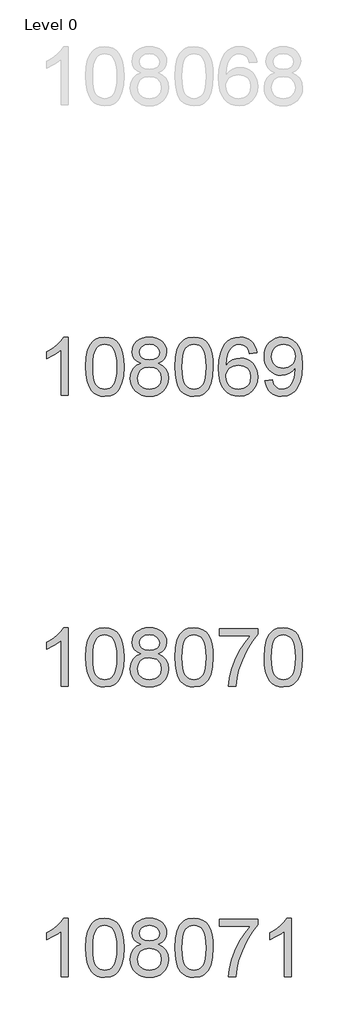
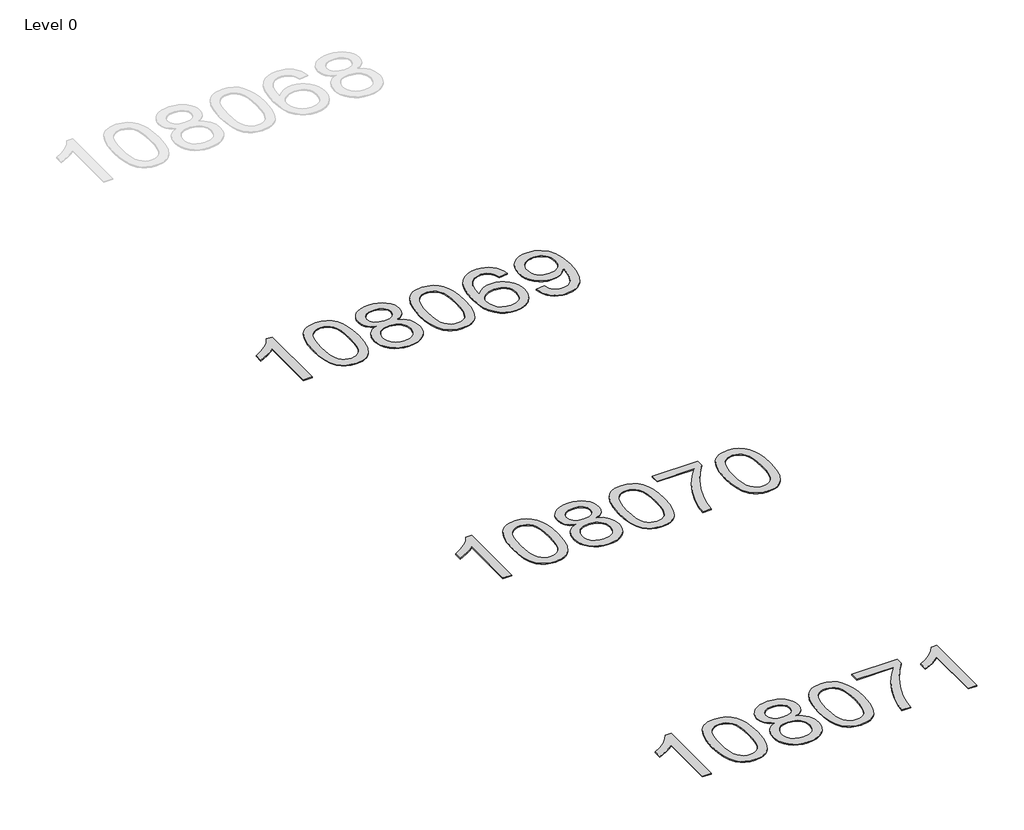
# One storey, part 1 of 9: 3 proxies.
"""IFC4 building model written with IfcOpenShell, lengths in millimetres."""

import ifcopenshell
import ifcopenshell.guid

model = None  # the IFC model being written
_history = None  # IfcOwnerHistory: only IFC2X3 demands one
_inside = {}  # id of a spatial element -> (the spatial element, [elements in it])
_under = {}  # id of a project, library or spatial element -> (it, [spatial elements below it])
_declared = {}  # id of a project -> (the project, [libraries it declares])
_typed = {}  # id of a type object -> (the type object, [elements of that type])
_made_of = {}  # id of a material, layer set ... -> (it, [elements and type objects made of it])


def new_model(schema):
    """Start an empty IFC model of exactly this schema.

    Asked for "IFC4X3", IfcOpenShell would pick the latest addendum, in which some entities
    have other attributes; the version numbers below select the first issue.
    IFC2X3 requires an IfcOwnerHistory on every rooted entity: one is made here for all.
    """
    global model, _history
    if schema == "IFC4X3":
        model = ifcopenshell.file(schema_version=(4, 3, 0, 0))
    else:
        model = ifcopenshell.file(schema=schema)
    _inside.clear()
    _under.clear()
    _declared.clear()
    _typed.clear()
    _made_of.clear()
    _history = None
    if model.schema == "IFC2X3":
        org = make("IfcOrganization", Name="unknown")
        user = make(
            "IfcPersonAndOrganization",
            ThePerson=make("IfcPerson", FamilyName="unknown"),
            TheOrganization=org,
        )
        app = make(
            "IfcApplication",
            ApplicationDeveloper=org,
            Version="unknown",
            ApplicationFullName="unknown",
            ApplicationIdentifier="unknown",
        )
        _history = make(
            "IfcOwnerHistory",
            OwningUser=user,
            OwningApplication=app,
            ChangeAction="ADDED",
            CreationDate=0,
        )
    return model


def make(cls, **values):
    """One entity of the class cls with the attributes given. An attribute that is None is left unset."""
    return model.create_entity(
        cls, **{name: value for name, value in values.items() if value is not None}
    )


def rooted(cls, **values):
    """An entity with a GlobalId (a new one), such as an element, a storey or a relation."""
    return make(cls, GlobalId=ifcopenshell.guid.new(), OwnerHistory=_history, **values)


def si_unit(unit_type, name, prefix=None):
    """IfcSIUnit, for example si_unit("LENGTHUNIT", "METRE", prefix="MILLI")."""
    return make("IfcSIUnit", UnitType=unit_type, Prefix=prefix, Name=name)


def assignment(units):
    """IfcUnitAssignment: the units of a project."""
    return None if units is None else make("IfcUnitAssignment", Units=units)


def point(xyz):
    """IfcCartesianPoint."""
    return None if xyz is None else make("IfcCartesianPoint", Coordinates=xyz)


def direction(xyz):
    """IfcDirection."""
    return None if xyz is None else make("IfcDirection", DirectionRatios=xyz)


def frame(location, z_axis=None, x_axis=None):
    """IfcAxis2Placement3D, a coordinate frame: its origin and axes. An axis left out is left unset."""
    return make(
        "IfcAxis2Placement3D",
        Location=point(location),
        Axis=direction(z_axis),
        RefDirection=direction(x_axis),
    )


def origin():
    """The frame at (0, 0, 0) with its axes left unset."""
    return frame((0.0, 0.0, 0.0))


def origin_with_axes():
    """The frame at (0, 0, 0) with the z axis (0, 0, 1) and the x axis (1, 0, 0) written out."""
    return frame((0.0, 0.0, 0.0), z_axis=(0.0, 0.0, 1.0), x_axis=(1.0, 0.0, 0.0))


def place(relative_to, where):
    """IfcLocalPlacement: puts the frame where relative to a parent placement (None: the world)."""
    return make(
        "IfcLocalPlacement", PlacementRelTo=relative_to, RelativePlacement=where
    )


def context(
    kind, dimensions, precision=None, world=None, true_north=None, identifier=None
):
    """IfcGeometricRepresentationContext, for example the 3D "Model" context."""
    return make(
        "IfcGeometricRepresentationContext",
        ContextIdentifier=identifier,
        ContextType=kind,
        CoordinateSpaceDimension=dimensions,
        Precision=precision,
        WorldCoordinateSystem=world,
        TrueNorth=true_north,
    )


def project(units=None, contexts=None):
    """IfcProject with its units and contexts."""
    return rooted(
        "IfcProject",
        Name="project",
        RepresentationContexts=contexts,
        UnitsInContext=assignment(units),
    )


def spatial(cls, under=None, at=None, **own):
    """A site, building, storey or space (cls), placed at a placement, below another one or the project."""
    s = rooted(cls, ObjectPlacement=at, **own)
    if under is not None:
        _under.setdefault(under.id(), (under, []))[1].append(s)
    return s


def polyline(points):
    """IfcPolyline through the points."""
    return make("IfcPolyline", Points=[point(p) for p in points])


def outline(outer, holes=None, kind="AREA"):
    """IfcArbitraryClosedProfileDef: a profile drawn as a closed curve; with holes, ...WithVoids."""
    if holes is None:
        return make("IfcArbitraryClosedProfileDef", ProfileType=kind, OuterCurve=outer)
    return make(
        "IfcArbitraryProfileDefWithVoids",
        ProfileType=kind,
        OuterCurve=outer,
        InnerCurves=holes,
    )


def extrude(swept, where, along, depth):
    """IfcExtrudedAreaSolid: the profile swept, set in the frame where, extruded along a direction by depth."""
    return make(
        "IfcExtrudedAreaSolid",
        SweptArea=swept,
        Position=where,
        ExtrudedDirection=direction(along),
        Depth=depth,
    )


def shape(context_of_items, identifier, shape_type, items):
    """IfcShapeRepresentation: the items that make up one representation, for example the "Body"."""
    return make(
        "IfcShapeRepresentation",
        ContextOfItems=context_of_items,
        RepresentationIdentifier=identifier,
        RepresentationType=shape_type,
        Items=items,
    )


def made_of(thing, what):
    """Note that an element or type object is made of a material, layer set ...; save() writes the relation."""
    if what is not None:
        _made_of.setdefault(what.id(), (what, []))[1].append(thing)
    return thing


def element(
    cls,
    number,
    at=None,
    inside=None,
    cuts=None,
    type_object=None,
    material=None,
    context=None,
    identifier="Body",
    shape_type=None,
    held_by="IfcProductDefinitionShape",
    body=None,
    shapes=None,
    **own,
):
    """One element of the class cls, such as IfcWall. Its Tag is "e" and its number.

    at: its placement. inside: the storey or other place that contains it. cuts: it is an
    opening in that element (IfcRelVoidsElement). A single representation is given by context,
    identifier, shape_type and body (its items); several are given by shapes. held_by: the class
    of the entity that holds the representations. save() writes the other relations.
    """
    e = rooted(cls, Tag="e%d" % number, ObjectPlacement=at, **own)
    if body is not None:
        shapes = [shape(context, identifier, shape_type, body)]
    if shapes is not None:
        e.Representation = make(held_by, Representations=shapes)
    if inside is not None:
        _inside.setdefault(inside.id(), (inside, []))[1].append(e)
    if cuts is not None:
        rooted(
            "IfcRelVoidsElement", RelatingBuildingElement=cuts, RelatedOpeningElement=e
        )
    if type_object is not None:
        _typed.setdefault(type_object.id(), (type_object, []))[1].append(e)
    return made_of(e, material)


def aggregate(whole, parts):
    """IfcRelAggregates: a whole, such as a stair, and the parts it consists of."""
    return rooted("IfcRelAggregates", RelatingObject=whole, RelatedObjects=parts)


def save(model, path):
    """Write the relations noted so far, then the file.

    IfcRelAggregates (storeys below a building ...), IfcRelContainedInSpatialStructure (elements
    in a storey), IfcRelDefinesByType, IfcRelAssociatesMaterial and IfcRelDeclares: one each for
    every whole, place, type object, material and project.
    """
    for whole, parts in _under.values():
        aggregate(whole, parts)
    for where, things in _inside.values():
        rooted(
            "IfcRelContainedInSpatialStructure",
            RelatedElements=things,
            RelatingStructure=where,
        )
    for kind, things in _typed.values():
        rooted("IfcRelDefinesByType", RelatedObjects=things, RelatingType=kind)
    for what, things in _made_of.values():
        rooted("IfcRelAssociatesMaterial", RelatedObjects=things, RelatingMaterial=what)
    for by, libraries in _declared.values():
        rooted("IfcRelDeclares", RelatingContext=by, RelatedDefinitions=libraries)
    model.write(path)


model = new_model("IFC4")

# Units and contexts
model_context = context("Model", 3, world=origin())
ifc_project = project(units=[si_unit("LENGTHUNIT", "METRE", prefix="MILLI")], contexts=[model_context])

# Site, building, storey
site = spatial("IfcSite", under=ifc_project)
building = spatial("IfcBuilding", under=site)
storey = spatial("IfcBuildingStorey", under=building, Name="Level 0", Elevation=0.0)

# Proxies
placement = place(None, origin())
element("IfcBuildingElementProxy", 1, Name="400mm Arial", ObjectType="400mm Arial", at=placement, inside=storey, context=model_context, shape_type="SweptSolid", body=[
    extrude(outline(polyline([(-3629.592891, -7850.9767982), (-3679.821046, -7850.9767982), (-3679.821046, -7537.8356439), (-3700.7903198, -7554.7950039), (-3727.4004508, -7571.7298384), (-3780.2773562, -7597.0891706), (-3780.2773562, -7549.6078677), (-3740.8281436, -7528.1480847), (-3706.6519062, -7502.6170742), (-3679.7106814, -7475.467383), (-3661.9665065, -7449.1515576), (-3629.592891, -7449.1515576), (-3629.592891, -7850.9767982)])), origin_with_axes(), (0.0, 0.0, 1.0), 5.0),
    extrude(outline(polyline([(-3510.3010227, -7653.3015394), (-3506.60994, -7588.9835039), (-3495.5366919, -7537.6884911), (-3477.1916431, -7498.6316859), (-3465.3335801, -7483.3983056), (-3451.6851581, -7471.0282736), (-3436.2003918, -7461.4572103), (-3418.8332959, -7454.6207366), (-3378.4521156, -7449.1515576), (-3347.5009771, -7452.3889191), (-3319.7872001, -7462.1010038), (-3296.6106344, -7477.9076669), (-3279.2711297, -7499.4287636), (-3266.1745307, -7526.480353), (-3255.726682, -7558.878494), (-3248.8840769, -7600.0199638), (-3246.6032085, -7653.3015394), (-3250.257503, -7717.2516929), (-3261.2203865, -7768.4240785), (-3279.4550707, -7807.5176718), (-3291.2855425, -7822.7970373), (-3304.9247675, -7835.2314488), (-3320.4279279, -7844.8668914), (-3337.8502061, -7851.7493504), (-3378.4521156, -7857.2553176), (-3406.1168416, -7854.8640846), (-3430.642308, -7847.6903857), (-3452.0285146, -7835.7342208), (-3470.2754616, -7818.9955901), (-3487.7866446, -7788.737296), (-3500.2946324, -7751.0355228), (-3507.7994251, -7705.8902706), (-3510.3010227, -7653.3015394)]), holes=[polyline([(-3460.0728676, -7653.2034376), (-3458.6013396, -7696.8679647), (-3454.1867557, -7732.2122274), (-3446.8291158, -7759.2362256), (-3436.5284199, -7777.9399594), (-3424.069483, -7790.6656108), (-3410.23712, -7799.7553617), (-3395.0313308, -7805.2092123), (-3378.4521156, -7807.0271625), (-3361.8729003, -7805.2030809), (-3346.6671112, -7799.7308363), (-3332.8347482, -7790.6104285), (-3320.3758113, -7777.8418575), (-3310.0751154, -7759.1074669), (-3302.7174755, -7732.0896001), (-3298.3028916, -7696.7882569), (-3296.8313636, -7653.2034376), (-3298.2538406, -7610.694673), (-3302.5212718, -7575.9727441), (-3309.633657, -7549.0376506), (-3319.5909964, -7529.8893928), (-3331.8414668, -7516.5414077), (-3345.8332454, -7507.0071327), (-3361.566332, -7501.2865677), (-3379.0407268, -7499.3797127), (-3395.5341029, -7501.0597071), (-3410.4823746, -7506.0996904), (-3423.885542, -7514.4996627), (-3435.743605, -7526.2596238), (-3446.3876574, -7547.1062702), (-3453.9905519, -7575.2124546), (-3458.5522887, -7610.5781771), (-3460.0728676, -7653.2034376)])]), origin_with_axes(), (0.0, 0.0, 1.0), 5.0),
    extrude(outline(polyline([(-3129.4695813, -7629.6589899), (-3156.3617551, -7616.4152381), (-3175.2341015, -7598.4625967), (-3186.3809259, -7576.1689478), (-3190.0965341, -7549.9021733), (-3188.0731831, -7529.4172776), (-3182.0031302, -7510.6369017), (-3171.8863753, -7493.5610458), (-3157.7229185, -7478.1897097), (-3140.1933414, -7465.4855182), (-3119.9782258, -7456.4110956), (-3097.0775716, -7450.9664421), (-3071.4913788, -7449.1515576), (-3045.7825587, -7451.0093617), (-3022.7102263, -7456.5827739), (-3002.2743814, -7465.8717943), (-2984.4750242, -7478.8764228), (-2970.05405, -7494.5481958), (-2959.7533542, -7511.8386496), (-2953.5729366, -7530.7477841), (-2951.5127975, -7551.2755994), (-2955.1793547, -7576.6962453), (-2966.1790263, -7598.6097495), (-2984.6344398, -7616.4520263), (-3010.6682223, -7629.6589899), (-2979.753872, -7645.5882803), (-2957.2517566, -7669.0468888), (-2943.5297582, -7698.9066441), (-2938.9557587, -7734.0393746), (-2941.2243643, -7759.0921385), (-2948.0301812, -7782.0602377), (-2959.3732094, -7802.9436723), (-2975.2534489, -7821.7424423), (-2994.8370338, -7837.2793252), (-3017.2900982, -7848.3770987), (-3042.6126422, -7855.0357629), (-3070.8046658, -7857.2553176), (-3098.9966893, -7855.0265658), (-3124.3192333, -7848.3403105), (-3146.7722978, -7837.1965518), (-3166.3558826, -7821.5952895), (-3182.2361221, -7802.6646952), (-3193.5791503, -7781.5329402), (-3200.3849672, -7758.2000247), (-3202.6535728, -7732.6659485), (-3197.8956324, -7696.1720546), (-3183.621811, -7666.1528838), (-3160.5678726, -7643.6385057), (-3129.4695813, -7629.6589899)]), holes=[polyline([(-3139.868379, -7551.3737013), (-3135.4170068, -7573.2994682), (-3122.0628904, -7590.8106512), (-3100.1984372, -7602.2885694), (-3070.2160546, -7606.1145422), (-3040.9326478, -7602.3130949), (-3019.3992883, -7590.9087531), (-3006.1555365, -7573.9861813), (-3001.7409525, -7553.6300442), (-3006.3026893, -7532.501355), (-3019.9878995, -7515.0269602), (-3041.8155645, -7503.2915245), (-3070.8046658, -7499.3797127), (-3099.977708, -7503.2056854), (-3121.7685848, -7514.6836037), (-3135.3434305, -7531.5080736), (-3139.868379, -7551.3737013)]), polyline([(-3152.4254178, -7730.900115), (-3150.3284904, -7750.1158178), (-3144.0377083, -7768.7183841), (-3132.4249, -7784.94198), (-3114.361894, -7797.0207722), (-3092.7304327, -7804.5255649), (-3070.4122583, -7807.0271625), (-3036.2237582, -7801.76645), (-3022.3300815, -7795.1905593), (-3010.5701204, -7785.9843124), (-2994.5304654, -7762.0842454), (-2989.1839138, -7732.4697448), (-2994.7021437, -7702.3524721), (-3011.2568335, -7677.9251076), (-3023.3356257, -7668.4828031), (-3037.4990825, -7661.7382999), (-3072.07999, -7656.3426973), (-3105.7902435, -7661.6647235), (-3119.5275703, -7668.3172562), (-3131.1863639, -7677.6308021), (-3147.1156543, -7701.5921827), (-3152.4254178, -7730.900115)])]), origin_with_axes(), (0.0, 0.0, 1.0), 5.0),
    extrude(outline(polyline([(-2895.006123, -7653.3015394), (-2891.3150403, -7588.9835039), (-2880.2417923, -7537.6884911), (-2861.8967434, -7498.6316859), (-2850.0386805, -7483.3983056), (-2836.3902584, -7471.0282736), (-2820.9054921, -7461.4572103), (-2803.5383963, -7454.6207366), (-2763.1572159, -7449.1515576), (-2732.2060774, -7452.3889191), (-2704.4923004, -7462.1010038), (-2681.3157347, -7477.9076669), (-2663.97623, -7499.4287636), (-2650.879631, -7526.480353), (-2640.4317823, -7558.878494), (-2633.5891772, -7600.0199638), (-2631.3083089, -7653.3015394), (-2634.9626033, -7717.2516929), (-2645.9254868, -7768.4240785), (-2664.160171, -7807.5176718), (-2675.9906429, -7822.7970373), (-2689.6298678, -7835.2314488), (-2705.1330282, -7844.8668914), (-2722.5553064, -7851.7493504), (-2763.1572159, -7857.2553176), (-2790.821942, -7854.8640846), (-2815.3474083, -7847.6903857), (-2836.733615, -7835.7342208), (-2854.9805619, -7818.9955901), (-2872.4917449, -7788.737296), (-2884.9997327, -7751.0355228), (-2892.5045254, -7705.8902706), (-2895.006123, -7653.3015394)]), holes=[polyline([(-2844.7779679, -7653.2034376), (-2843.3064399, -7696.8679647), (-2838.891856, -7732.2122274), (-2831.5342161, -7759.2362256), (-2821.2335202, -7777.9399594), (-2808.7745833, -7790.6656108), (-2794.9422203, -7799.7553617), (-2779.7364312, -7805.2092123), (-2763.1572159, -7807.0271625), (-2746.5780007, -7805.2030809), (-2731.3722115, -7799.7308363), (-2717.5398485, -7790.6104285), (-2705.0809116, -7777.8418575), (-2694.7802158, -7759.1074669), (-2687.4225759, -7732.0896001), (-2683.0079919, -7696.7882569), (-2681.5364639, -7653.2034376), (-2682.958941, -7610.694673), (-2687.2263721, -7575.9727441), (-2694.3387574, -7549.0376506), (-2704.2960967, -7529.8893928), (-2716.5465671, -7516.5414077), (-2730.5383457, -7507.0071327), (-2746.2714324, -7501.2865677), (-2763.7458271, -7499.3797127), (-2780.2392032, -7501.0597071), (-2795.187475, -7506.0996904), (-2808.5906423, -7514.4996627), (-2820.4487053, -7526.2596238), (-2831.0927577, -7547.1062702), (-2838.6956523, -7575.2124546), (-2843.257389, -7610.5781771), (-2844.7779679, -7653.2034376)])]), origin_with_axes(), (0.0, 0.0, 1.0), 5.0),
    extrude(outline(polyline([(-2329.9393784, -7555.8863871), (-2380.1675335, -7562.1649065), (-2388.2609374, -7537.2715582), (-2399.1992954, -7520.27541), (-2421.9834536, -7504.603637), (-2449.5255523, -7499.3797127), (-2472.8737963, -7502.4208705), (-2494.8486141, -7511.544344), (-2513.7209605, -7530.7600468), (-2529.1352161, -7557.2107623), (-2539.5462765, -7594.6243612), (-2543.4090375, -7646.7287145), (-2523.2613669, -7623.221055), (-2499.1160453, -7606.6541024), (-2472.3219733, -7596.8316532), (-2444.2280516, -7593.5575034), (-2420.0949927, -7595.7954522), (-2397.8258693, -7602.5092986), (-2377.4206813, -7613.6990427), (-2358.8794287, -7629.3646843), (-2343.4713045, -7648.5742558), (-2332.4655014, -7670.3957895), (-2325.8620196, -7694.8292853), (-2323.660859, -7721.8747433), (-2327.8056628, -7757.8413397), (-2340.2400743, -7791.1837112), (-2359.9340238, -7819.4615739), (-2385.8574417, -7840.2346439), (-2416.8331057, -7853.0001492), (-2451.6837933, -7857.2553176), (-2481.6263221, -7854.4348889), (-2508.6687144, -7845.973603), (-2532.8109703, -7831.8714599), (-2554.0530899, -7812.1284595), (-2571.3711348, -7785.910736), (-2583.7411669, -7752.3844235), (-2591.1631861, -7711.549522), (-2593.6371926, -7663.4060316), (-2590.8903403, -7609.4316115), (-2582.6497836, -7563.3666543), (-2568.9155225, -7525.2111601), (-2549.6875569, -7494.9651287), (-2528.8470418, -7474.9216913), (-2504.6833261, -7460.6049504), (-2477.1964097, -7452.0149058), (-2446.3862926, -7449.1515576), (-2423.2526465, -7450.9235225), (-2402.3140296, -7456.2394174), (-2383.5704419, -7465.0992421), (-2367.0218835, -7477.5029967), (-2353.1159441, -7493.0337482), (-2342.3002134, -7511.2745638), (-2334.5746915, -7532.2254435), (-2329.9393784, -7555.8863871)]), holes=[polyline([(-2543.4090375, -7721.0899284), (-2540.5027697, -7743.3467891), (-2531.7839664, -7764.5981057), (-2518.245909, -7782.8695781), (-2500.8818788, -7796.1869064), (-2479.9248678, -7804.3170985), (-2455.607868, -7807.0271625), (-2422.4617002, -7801.4108307), (-2408.5465637, -7794.390416), (-2396.4033922, -7784.5618353), (-2386.5533518, -7772.3236276), (-2379.5176086, -7758.0743317), (-2373.8890141, -7723.542475), (-2379.4440322, -7690.3963073), (-2386.3878049, -7676.7754764), (-2396.1090866, -7665.1228142), (-2408.2890463, -7655.7878086), (-2422.608853, -7649.1199474), (-2457.6680071, -7643.7856585), (-2490.765124, -7649.1199474), (-2518.4421127, -7665.1228142), (-2529.3651423, -7676.6221922), (-2537.1673063, -7689.7831706), (-2541.8486047, -7704.6057493), (-2543.4090375, -7721.0899284)])]), origin_with_axes(), (0.0, 0.0, 1.0), 5.0),
    extrude(outline(polyline([(-2273.432704, -7750.520488), (-2223.2045489, -7744.2419686), (-2214.6206357, -7772.7528233), (-2200.6411198, -7792.1647299), (-2181.609358, -7803.3115543), (-2157.8687065, -7807.0271625), (-2136.568339, -7804.6359295), (-2117.2054833, -7797.4622306), (-2101.1167774, -7786.2908807), (-2089.6388592, -7771.9066947), (-2073.2067967, -7728.2513646), (-2067.7621432, -7699.8508746), (-2065.9472587, -7669.9788566), (-2066.2415643, -7660.16867), (-2083.6423826, -7681.4077239), (-2106.4142781, -7698.2321938), (-2132.9140445, -7709.1950772), (-2161.4984756, -7712.8493717), (-2185.3586886, -7710.6175543), (-2207.299784, -7703.922102), (-2227.3217615, -7692.7630148), (-2245.4246214, -7677.1402927), (-2260.4250097, -7657.8694075), (-2271.1395728, -7635.765831), (-2277.5683107, -7610.8295631), (-2279.7112233, -7583.0606038), (-2277.4640775, -7554.3658082), (-2270.7226399, -7528.6140685), (-2259.4869107, -7505.8053848), (-2243.7568897, -7485.9397571), (-2224.6423543, -7469.8449198), (-2203.253082, -7458.3486075), (-2179.5890727, -7451.45082), (-2153.6503263, -7449.1515576), (-2116.1876765, -7454.4000074), (-2082.0850155, -7470.1453568), (-2053.5618982, -7495.6027908), (-2032.8378791, -7529.9874947), (-2020.2195267, -7577.5178484), (-2016.0134092, -7642.4122324), (-2020.2072639, -7711.2184282), (-2032.7888282, -7764.401902), (-2053.6477373, -7804.3661494), (-2067.1398095, -7820.2923741), (-2082.6736267, -7833.5146661), (-2099.9364893, -7843.9012011), (-2118.6156976, -7851.3201547), (-2160.2231513, -7857.2553176), (-2182.780449, -7855.5048124), (-2203.1672429, -7850.2532969), (-2221.383533, -7841.5007711), (-2237.4293194, -7829.247235), (-2250.8999317, -7813.8237823), (-2261.3907, -7795.561507), (-2268.901624, -7774.4604089), (-2273.432704, -7750.520488)]), holes=[polyline([(-2066.2415643, -7581.8833814), (-2071.6616923, -7547.8420342), (-2078.4368524, -7533.7644165), (-2087.9220765, -7521.6488361), (-2099.6513808, -7511.9060946), (-2113.1587814, -7504.9469935), (-2145.5078715, -7499.3797127), (-2163.1171563, -7500.8788318), (-2179.0587095, -7505.3761892), (-2193.3325309, -7512.8717848), (-2205.9386206, -7523.3656187), (-2216.2393164, -7536.2445543), (-2223.5969563, -7550.8954547), (-2228.0115403, -7567.3183201), (-2229.4830683, -7585.5131505), (-2223.9157874, -7616.5501281), (-2216.9566863, -7629.6681869), (-2207.2139448, -7641.1859591), (-2195.0922331, -7650.5638843), (-2180.9962213, -7657.2624023), (-2146.8812976, -7662.6212166), (-2114.7897249, -7657.2624023), (-2088.9521461, -7641.1859591), (-2079.0162666, -7629.4413264), (-2071.9192097, -7615.6426859), (-2066.2415643, -7581.8833814)])]), origin_with_axes(), (0.0, 0.0, 1.0), 5.0),
])
element("IfcBuildingElementProxy", 2, Name="400mm Arial", ObjectType="400mm Arial", at=placement, inside=storey, context=model_context, shape_type="SweptSolid", body=[
    extrude(outline(polyline([(-3629.592891, -9850.9767982), (-3679.821046, -9850.9767982), (-3679.821046, -9537.8356439), (-3700.7903198, -9554.7950039), (-3727.4004508, -9571.7298384), (-3780.2773562, -9597.0891706), (-3780.2773562, -9549.6078677), (-3740.8281436, -9528.1480847), (-3706.6519062, -9502.6170742), (-3679.7106814, -9475.467383), (-3661.9665065, -9449.1515576), (-3629.592891, -9449.1515576), (-3629.592891, -9850.9767982)])), origin_with_axes(), (0.0, 0.0, 1.0), 5.0),
    extrude(outline(polyline([(-3510.3010227, -9653.3015394), (-3506.60994, -9588.9835039), (-3495.5366919, -9537.6884911), (-3477.1916431, -9498.6316859), (-3465.3335801, -9483.3983056), (-3451.6851581, -9471.0282736), (-3436.2003918, -9461.4572103), (-3418.8332959, -9454.6207366), (-3378.4521156, -9449.1515576), (-3347.5009771, -9452.3889191), (-3319.7872001, -9462.1010038), (-3296.6106344, -9477.9076669), (-3279.2711297, -9499.4287636), (-3266.1745307, -9526.480353), (-3255.726682, -9558.878494), (-3248.8840769, -9600.0199638), (-3246.6032085, -9653.3015394), (-3250.257503, -9717.2516929), (-3261.2203865, -9768.4240785), (-3279.4550707, -9807.5176718), (-3291.2855425, -9822.7970373), (-3304.9247675, -9835.2314488), (-3320.4279279, -9844.8668914), (-3337.8502061, -9851.7493504), (-3378.4521156, -9857.2553176), (-3406.1168416, -9854.8640846), (-3430.642308, -9847.6903857), (-3452.0285146, -9835.7342208), (-3470.2754616, -9818.9955901), (-3487.7866446, -9788.737296), (-3500.2946324, -9751.0355228), (-3507.7994251, -9705.8902706), (-3510.3010227, -9653.3015394)]), holes=[polyline([(-3460.0728676, -9653.2034376), (-3458.6013396, -9696.8679647), (-3454.1867557, -9732.2122274), (-3446.8291158, -9759.2362256), (-3436.5284199, -9777.9399594), (-3424.069483, -9790.6656108), (-3410.23712, -9799.7553617), (-3395.0313308, -9805.2092123), (-3378.4521156, -9807.0271625), (-3361.8729003, -9805.2030809), (-3346.6671112, -9799.7308363), (-3332.8347482, -9790.6104285), (-3320.3758113, -9777.8418575), (-3310.0751154, -9759.1074669), (-3302.7174755, -9732.0896001), (-3298.3028916, -9696.7882569), (-3296.8313636, -9653.2034376), (-3298.2538406, -9610.694673), (-3302.5212718, -9575.9727441), (-3309.633657, -9549.0376506), (-3319.5909964, -9529.8893928), (-3331.8414668, -9516.5414077), (-3345.8332454, -9507.0071327), (-3361.566332, -9501.2865677), (-3379.0407268, -9499.3797127), (-3395.5341029, -9501.0597071), (-3410.4823746, -9506.0996904), (-3423.885542, -9514.4996627), (-3435.743605, -9526.2596238), (-3446.3876574, -9547.1062702), (-3453.9905519, -9575.2124546), (-3458.5522887, -9610.5781771), (-3460.0728676, -9653.2034376)])]), origin_with_axes(), (0.0, 0.0, 1.0), 5.0),
    extrude(outline(polyline([(-3129.4695813, -9629.6589899), (-3156.3617551, -9616.4152381), (-3175.2341015, -9598.4625967), (-3186.3809259, -9576.1689478), (-3190.0965341, -9549.9021733), (-3188.0731831, -9529.4172776), (-3182.0031302, -9510.6369017), (-3171.8863753, -9493.5610458), (-3157.7229185, -9478.1897097), (-3140.1933414, -9465.4855182), (-3119.9782258, -9456.4110956), (-3097.0775716, -9450.9664421), (-3071.4913788, -9449.1515576), (-3045.7825587, -9451.0093617), (-3022.7102263, -9456.5827739), (-3002.2743814, -9465.8717943), (-2984.4750242, -9478.8764228), (-2970.05405, -9494.5481958), (-2959.7533542, -9511.8386496), (-2953.5729366, -9530.7477841), (-2951.5127975, -9551.2755994), (-2955.1793547, -9576.6962453), (-2966.1790263, -9598.6097495), (-2984.6344398, -9616.4520263), (-3010.6682223, -9629.6589899), (-2979.753872, -9645.5882803), (-2957.2517566, -9669.0468888), (-2943.5297582, -9698.9066441), (-2938.9557587, -9734.0393746), (-2941.2243643, -9759.0921385), (-2948.0301812, -9782.0602377), (-2959.3732094, -9802.9436723), (-2975.2534489, -9821.7424423), (-2994.8370338, -9837.2793252), (-3017.2900982, -9848.3770987), (-3042.6126422, -9855.0357629), (-3070.8046658, -9857.2553176), (-3098.9966893, -9855.0265658), (-3124.3192333, -9848.3403105), (-3146.7722978, -9837.1965518), (-3166.3558826, -9821.5952895), (-3182.2361221, -9802.6646952), (-3193.5791503, -9781.5329402), (-3200.3849672, -9758.2000247), (-3202.6535728, -9732.6659485), (-3197.8956324, -9696.1720546), (-3183.621811, -9666.1528838), (-3160.5678726, -9643.6385057), (-3129.4695813, -9629.6589899)]), holes=[polyline([(-3139.868379, -9551.3737013), (-3135.4170068, -9573.2994682), (-3122.0628904, -9590.8106512), (-3100.1984372, -9602.2885694), (-3070.2160546, -9606.1145422), (-3040.9326478, -9602.3130949), (-3019.3992883, -9590.9087531), (-3006.1555365, -9573.9861813), (-3001.7409525, -9553.6300442), (-3006.3026893, -9532.501355), (-3019.9878995, -9515.0269602), (-3041.8155645, -9503.2915245), (-3070.8046658, -9499.3797127), (-3099.977708, -9503.2056854), (-3121.7685848, -9514.6836037), (-3135.3434305, -9531.5080736), (-3139.868379, -9551.3737013)]), polyline([(-3152.4254178, -9730.900115), (-3150.3284904, -9750.1158178), (-3144.0377083, -9768.7183841), (-3132.4249, -9784.94198), (-3114.361894, -9797.0207722), (-3092.7304327, -9804.5255649), (-3070.4122583, -9807.0271625), (-3036.2237582, -9801.76645), (-3022.3300815, -9795.1905593), (-3010.5701204, -9785.9843124), (-2994.5304654, -9762.0842454), (-2989.1839138, -9732.4697448), (-2994.7021437, -9702.3524721), (-3011.2568335, -9677.9251076), (-3023.3356257, -9668.4828031), (-3037.4990825, -9661.7382999), (-3072.07999, -9656.3426973), (-3105.7902435, -9661.6647235), (-3119.5275703, -9668.3172562), (-3131.1863639, -9677.6308021), (-3147.1156543, -9701.5921827), (-3152.4254178, -9730.900115)])]), origin_with_axes(), (0.0, 0.0, 1.0), 5.0),
    extrude(outline(polyline([(-2895.006123, -9653.3015394), (-2891.3150403, -9588.9835039), (-2880.2417923, -9537.6884911), (-2861.8967434, -9498.6316859), (-2850.0386805, -9483.3983056), (-2836.3902584, -9471.0282736), (-2820.9054921, -9461.4572103), (-2803.5383963, -9454.6207366), (-2763.1572159, -9449.1515576), (-2732.2060774, -9452.3889191), (-2704.4923004, -9462.1010038), (-2681.3157347, -9477.9076669), (-2663.97623, -9499.4287636), (-2650.879631, -9526.480353), (-2640.4317823, -9558.878494), (-2633.5891772, -9600.0199638), (-2631.3083089, -9653.3015394), (-2634.9626033, -9717.2516929), (-2645.9254868, -9768.4240785), (-2664.160171, -9807.5176718), (-2675.9906429, -9822.7970373), (-2689.6298678, -9835.2314488), (-2705.1330282, -9844.8668914), (-2722.5553064, -9851.7493504), (-2763.1572159, -9857.2553176), (-2790.821942, -9854.8640846), (-2815.3474083, -9847.6903857), (-2836.733615, -9835.7342208), (-2854.9805619, -9818.9955901), (-2872.4917449, -9788.737296), (-2884.9997327, -9751.0355228), (-2892.5045254, -9705.8902706), (-2895.006123, -9653.3015394)]), holes=[polyline([(-2844.7779679, -9653.2034376), (-2843.3064399, -9696.8679647), (-2838.891856, -9732.2122274), (-2831.5342161, -9759.2362256), (-2821.2335202, -9777.9399594), (-2808.7745833, -9790.6656108), (-2794.9422203, -9799.7553617), (-2779.7364312, -9805.2092123), (-2763.1572159, -9807.0271625), (-2746.5780007, -9805.2030809), (-2731.3722115, -9799.7308363), (-2717.5398485, -9790.6104285), (-2705.0809116, -9777.8418575), (-2694.7802158, -9759.1074669), (-2687.4225759, -9732.0896001), (-2683.0079919, -9696.7882569), (-2681.5364639, -9653.2034376), (-2682.958941, -9610.694673), (-2687.2263721, -9575.9727441), (-2694.3387574, -9549.0376506), (-2704.2960967, -9529.8893928), (-2716.5465671, -9516.5414077), (-2730.5383457, -9507.0071327), (-2746.2714324, -9501.2865677), (-2763.7458271, -9499.3797127), (-2780.2392032, -9501.0597071), (-2795.187475, -9506.0996904), (-2808.5906423, -9514.4996627), (-2820.4487053, -9526.2596238), (-2831.0927577, -9547.1062702), (-2838.6956523, -9575.2124546), (-2843.257389, -9610.5781771), (-2844.7779679, -9653.2034376)])]), origin_with_axes(), (0.0, 0.0, 1.0), 5.0),
    extrude(outline(polyline([(-2587.3586732, -9505.658232), (-2587.3586732, -9455.430077), (-2323.660859, -9455.430077), (-2323.660859, -9496.0442492), (-2361.2461362, -9543.6113912), (-2398.4635314, -9604.1034539), (-2431.2908681, -9672.0022075), (-2455.7059698, -9741.789422), (-2467.6743974, -9794.0041399), (-2474.3453243, -9850.9767982), (-2524.5734793, -9850.9767982), (-2519.1410885, -9799.2035387), (-2504.6097497, -9737.6691437), (-2481.3718704, -9672.4436659), (-2449.8198579, -9609.5971584), (-2412.9826075, -9552.7839156), (-2373.8890141, -9505.658232), (-2587.3586732, -9505.658232)])), origin_with_axes(), (0.0, 0.0, 1.0), 5.0),
    extrude(outline(polyline([(-2279.7112233, -9653.3015394), (-2276.0201407, -9588.9835039), (-2264.9468926, -9537.6884911), (-2246.6018438, -9498.6316859), (-2234.7437808, -9483.3983056), (-2221.0953588, -9471.0282736), (-2205.6105925, -9461.4572103), (-2188.2434966, -9454.6207366), (-2147.8623163, -9449.1515576), (-2116.9111777, -9452.3889191), (-2089.1974008, -9462.1010038), (-2066.0208351, -9477.9076669), (-2048.6813304, -9499.4287636), (-2035.5847313, -9526.480353), (-2025.1368827, -9558.878494), (-2018.2942776, -9600.0199638), (-2016.0134092, -9653.3015394), (-2019.6677037, -9717.2516929), (-2030.6305871, -9768.4240785), (-2048.8652714, -9807.5176718), (-2060.6957432, -9822.7970373), (-2074.3349682, -9835.2314488), (-2089.8381286, -9844.8668914), (-2107.2604067, -9851.7493504), (-2147.8623163, -9857.2553176), (-2175.5270423, -9854.8640846), (-2200.0525086, -9847.6903857), (-2221.4387153, -9835.7342208), (-2239.6856623, -9818.9955901), (-2257.1968452, -9788.737296), (-2269.7048331, -9751.0355228), (-2277.2096258, -9705.8902706), (-2279.7112233, -9653.3015394)]), holes=[polyline([(-2229.4830683, -9653.2034376), (-2228.0115403, -9696.8679647), (-2223.5969563, -9732.2122274), (-2216.2393164, -9759.2362256), (-2205.9386206, -9777.9399594), (-2193.4796837, -9790.6656108), (-2179.6473206, -9799.7553617), (-2164.4415315, -9805.2092123), (-2147.8623163, -9807.0271625), (-2131.283101, -9805.2030809), (-2116.0773119, -9799.7308363), (-2102.2449489, -9790.6104285), (-2089.786012, -9777.8418575), (-2079.4853161, -9759.1074669), (-2072.1276762, -9732.0896001), (-2067.7130922, -9696.7882569), (-2066.2415643, -9653.2034376), (-2067.6640413, -9610.694673), (-2071.9314725, -9575.9727441), (-2079.0438577, -9549.0376506), (-2089.001197, -9529.8893928), (-2101.2516675, -9516.5414077), (-2115.243446, -9507.0071327), (-2130.9765327, -9501.2865677), (-2148.4509275, -9499.3797127), (-2164.9443036, -9501.0597071), (-2179.8925753, -9506.0996904), (-2193.2957427, -9514.4996627), (-2205.1538056, -9526.2596238), (-2215.797858, -9547.1062702), (-2223.4007526, -9575.2124546), (-2227.9624893, -9610.5781771), (-2229.4830683, -9653.2034376)])]), origin_with_axes(), (0.0, 0.0, 1.0), 5.0),
])
element("IfcBuildingElementProxy", 3, Name="400mm Arial", ObjectType="400mm Arial", at=placement, inside=storey, context=model_context, shape_type="SweptSolid", body=[
    extrude(outline(polyline([(-3629.592891, -11850.9767982), (-3679.821046, -11850.9767982), (-3679.821046, -11537.8356439), (-3700.7903198, -11554.7950039), (-3727.4004508, -11571.7298384), (-3780.2773562, -11597.0891706), (-3780.2773562, -11549.6078677), (-3740.8281436, -11528.1480847), (-3706.6519062, -11502.6170742), (-3679.7106814, -11475.467383), (-3661.9665065, -11449.1515576), (-3629.592891, -11449.1515576), (-3629.592891, -11850.9767982)])), origin_with_axes(), (0.0, 0.0, 1.0), 5.0),
    extrude(outline(polyline([(-3510.3010227, -11653.3015394), (-3506.60994, -11588.9835039), (-3495.5366919, -11537.6884911), (-3477.1916431, -11498.6316859), (-3465.3335801, -11483.3983056), (-3451.6851581, -11471.0282736), (-3436.2003918, -11461.4572103), (-3418.8332959, -11454.6207366), (-3378.4521156, -11449.1515576), (-3347.5009771, -11452.3889191), (-3319.7872001, -11462.1010038), (-3296.6106344, -11477.9076669), (-3279.2711297, -11499.4287636), (-3266.1745307, -11526.480353), (-3255.726682, -11558.878494), (-3248.8840769, -11600.0199638), (-3246.6032085, -11653.3015394), (-3250.257503, -11717.2516929), (-3261.2203865, -11768.4240785), (-3279.4550707, -11807.5176718), (-3291.2855425, -11822.7970373), (-3304.9247675, -11835.2314488), (-3320.4279279, -11844.8668914), (-3337.8502061, -11851.7493504), (-3378.4521156, -11857.2553176), (-3406.1168416, -11854.8640846), (-3430.642308, -11847.6903857), (-3452.0285146, -11835.7342208), (-3470.2754616, -11818.9955901), (-3487.7866446, -11788.737296), (-3500.2946324, -11751.0355228), (-3507.7994251, -11705.8902706), (-3510.3010227, -11653.3015394)]), holes=[polyline([(-3460.0728676, -11653.2034376), (-3458.6013396, -11696.8679647), (-3454.1867557, -11732.2122274), (-3446.8291158, -11759.2362256), (-3436.5284199, -11777.9399594), (-3424.069483, -11790.6656108), (-3410.23712, -11799.7553617), (-3395.0313308, -11805.2092123), (-3378.4521156, -11807.0271625), (-3361.8729003, -11805.2030809), (-3346.6671112, -11799.7308363), (-3332.8347482, -11790.6104285), (-3320.3758113, -11777.8418575), (-3310.0751154, -11759.1074669), (-3302.7174755, -11732.0896001), (-3298.3028916, -11696.7882569), (-3296.8313636, -11653.2034376), (-3298.2538406, -11610.694673), (-3302.5212718, -11575.9727441), (-3309.633657, -11549.0376506), (-3319.5909964, -11529.8893928), (-3331.8414668, -11516.5414077), (-3345.8332454, -11507.0071327), (-3361.566332, -11501.2865677), (-3379.0407268, -11499.3797127), (-3395.5341029, -11501.0597071), (-3410.4823746, -11506.0996904), (-3423.885542, -11514.4996627), (-3435.743605, -11526.2596238), (-3446.3876574, -11547.1062702), (-3453.9905519, -11575.2124546), (-3458.5522887, -11610.5781771), (-3460.0728676, -11653.2034376)])]), origin_with_axes(), (0.0, 0.0, 1.0), 5.0),
    extrude(outline(polyline([(-3129.4695813, -11629.6589899), (-3156.3617551, -11616.4152381), (-3175.2341015, -11598.4625967), (-3186.3809259, -11576.1689478), (-3190.0965341, -11549.9021733), (-3188.0731831, -11529.4172776), (-3182.0031302, -11510.6369017), (-3171.8863753, -11493.5610458), (-3157.7229185, -11478.1897097), (-3140.1933414, -11465.4855182), (-3119.9782258, -11456.4110956), (-3097.0775716, -11450.9664421), (-3071.4913788, -11449.1515576), (-3045.7825587, -11451.0093617), (-3022.7102263, -11456.5827739), (-3002.2743814, -11465.8717943), (-2984.4750242, -11478.8764228), (-2970.05405, -11494.5481958), (-2959.7533542, -11511.8386496), (-2953.5729366, -11530.7477841), (-2951.5127975, -11551.2755994), (-2955.1793547, -11576.6962453), (-2966.1790263, -11598.6097495), (-2984.6344398, -11616.4520263), (-3010.6682223, -11629.6589899), (-2979.753872, -11645.5882803), (-2957.2517566, -11669.0468888), (-2943.5297582, -11698.9066441), (-2938.9557587, -11734.0393746), (-2941.2243643, -11759.0921385), (-2948.0301812, -11782.0602377), (-2959.3732094, -11802.9436723), (-2975.2534489, -11821.7424423), (-2994.8370338, -11837.2793252), (-3017.2900982, -11848.3770987), (-3042.6126422, -11855.0357629), (-3070.8046658, -11857.2553176), (-3098.9966893, -11855.0265658), (-3124.3192333, -11848.3403105), (-3146.7722978, -11837.1965518), (-3166.3558826, -11821.5952895), (-3182.2361221, -11802.6646952), (-3193.5791503, -11781.5329402), (-3200.3849672, -11758.2000247), (-3202.6535728, -11732.6659485), (-3197.8956324, -11696.1720546), (-3183.621811, -11666.1528838), (-3160.5678726, -11643.6385057), (-3129.4695813, -11629.6589899)]), holes=[polyline([(-3139.868379, -11551.3737013), (-3135.4170068, -11573.2994682), (-3122.0628904, -11590.8106512), (-3100.1984372, -11602.2885694), (-3070.2160546, -11606.1145422), (-3040.9326478, -11602.3130949), (-3019.3992883, -11590.9087531), (-3006.1555365, -11573.9861813), (-3001.7409525, -11553.6300442), (-3006.3026893, -11532.501355), (-3019.9878995, -11515.0269602), (-3041.8155645, -11503.2915245), (-3070.8046658, -11499.3797127), (-3099.977708, -11503.2056854), (-3121.7685848, -11514.6836037), (-3135.3434305, -11531.5080736), (-3139.868379, -11551.3737013)]), polyline([(-3152.4254178, -11730.900115), (-3150.3284904, -11750.1158178), (-3144.0377083, -11768.7183841), (-3132.4249, -11784.94198), (-3114.361894, -11797.0207722), (-3092.7304327, -11804.5255649), (-3070.4122583, -11807.0271625), (-3036.2237582, -11801.76645), (-3022.3300815, -11795.1905593), (-3010.5701204, -11785.9843124), (-2994.5304654, -11762.0842454), (-2989.1839138, -11732.4697448), (-2994.7021437, -11702.3524721), (-3011.2568335, -11677.9251076), (-3023.3356257, -11668.4828031), (-3037.4990825, -11661.7382999), (-3072.07999, -11656.3426973), (-3105.7902435, -11661.6647235), (-3119.5275703, -11668.3172562), (-3131.1863639, -11677.6308021), (-3147.1156543, -11701.5921827), (-3152.4254178, -11730.900115)])]), origin_with_axes(), (0.0, 0.0, 1.0), 5.0),
    extrude(outline(polyline([(-2895.006123, -11653.3015394), (-2891.3150403, -11588.9835039), (-2880.2417923, -11537.6884911), (-2861.8967434, -11498.6316859), (-2850.0386805, -11483.3983056), (-2836.3902584, -11471.0282736), (-2820.9054921, -11461.4572103), (-2803.5383963, -11454.6207366), (-2763.1572159, -11449.1515576), (-2732.2060774, -11452.3889191), (-2704.4923004, -11462.1010038), (-2681.3157347, -11477.9076669), (-2663.97623, -11499.4287636), (-2650.879631, -11526.480353), (-2640.4317823, -11558.878494), (-2633.5891772, -11600.0199638), (-2631.3083089, -11653.3015394), (-2634.9626033, -11717.2516929), (-2645.9254868, -11768.4240785), (-2664.160171, -11807.5176718), (-2675.9906429, -11822.7970373), (-2689.6298678, -11835.2314488), (-2705.1330282, -11844.8668914), (-2722.5553064, -11851.7493504), (-2763.1572159, -11857.2553176), (-2790.821942, -11854.8640846), (-2815.3474083, -11847.6903857), (-2836.733615, -11835.7342208), (-2854.9805619, -11818.9955901), (-2872.4917449, -11788.737296), (-2884.9997327, -11751.0355228), (-2892.5045254, -11705.8902706), (-2895.006123, -11653.3015394)]), holes=[polyline([(-2844.7779679, -11653.2034376), (-2843.3064399, -11696.8679647), (-2838.891856, -11732.2122274), (-2831.5342161, -11759.2362256), (-2821.2335202, -11777.9399594), (-2808.7745833, -11790.6656108), (-2794.9422203, -11799.7553617), (-2779.7364312, -11805.2092123), (-2763.1572159, -11807.0271625), (-2746.5780007, -11805.2030809), (-2731.3722115, -11799.7308363), (-2717.5398485, -11790.6104285), (-2705.0809116, -11777.8418575), (-2694.7802158, -11759.1074669), (-2687.4225759, -11732.0896001), (-2683.0079919, -11696.7882569), (-2681.5364639, -11653.2034376), (-2682.958941, -11610.694673), (-2687.2263721, -11575.9727441), (-2694.3387574, -11549.0376506), (-2704.2960967, -11529.8893928), (-2716.5465671, -11516.5414077), (-2730.5383457, -11507.0071327), (-2746.2714324, -11501.2865677), (-2763.7458271, -11499.3797127), (-2780.2392032, -11501.0597071), (-2795.187475, -11506.0996904), (-2808.5906423, -11514.4996627), (-2820.4487053, -11526.2596238), (-2831.0927577, -11547.1062702), (-2838.6956523, -11575.2124546), (-2843.257389, -11610.5781771), (-2844.7779679, -11653.2034376)])]), origin_with_axes(), (0.0, 0.0, 1.0), 5.0),
    extrude(outline(polyline([(-2587.3586732, -11505.658232), (-2587.3586732, -11455.430077), (-2323.660859, -11455.430077), (-2323.660859, -11496.0442492), (-2361.2461362, -11543.6113912), (-2398.4635314, -11604.1034539), (-2431.2908681, -11672.0022075), (-2455.7059698, -11741.789422), (-2467.6743974, -11794.0041399), (-2474.3453243, -11850.9767982), (-2524.5734793, -11850.9767982), (-2519.1410885, -11799.2035387), (-2504.6097497, -11737.6691437), (-2481.3718704, -11672.4436659), (-2449.8198579, -11609.5971584), (-2412.9826075, -11552.7839156), (-2373.8890141, -11505.658232), (-2587.3586732, -11505.658232)])), origin_with_axes(), (0.0, 0.0, 1.0), 5.0),
    extrude(outline(polyline([(-2091.3556418, -11850.9767982), (-2141.5837969, -11850.9767982), (-2141.5837969, -11537.8356439), (-2162.5530706, -11554.7950039), (-2189.1632016, -11571.7298384), (-2242.040107, -11597.0891706), (-2242.040107, -11549.6078677), (-2202.5908944, -11528.1480847), (-2168.4146571, -11502.6170742), (-2141.4734323, -11475.467383), (-2123.7292574, -11449.1515576), (-2091.3556418, -11449.1515576), (-2091.3556418, -11850.9767982)])), origin_with_axes(), (0.0, 0.0, 1.0), 5.0),
])

save(model, "model.ifc")
